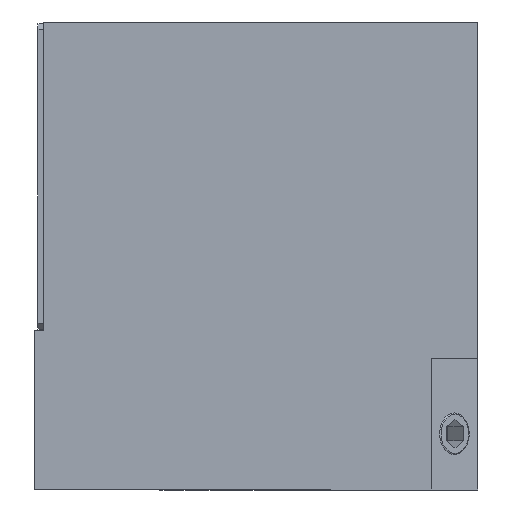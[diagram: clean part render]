
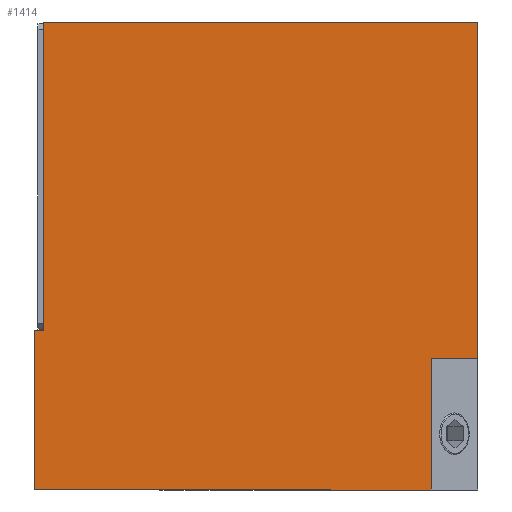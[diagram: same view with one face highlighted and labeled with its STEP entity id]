
A CAD part, left-side view. The second image highlights one B-rep face of the part: STEP entity #1414.
In plain terms, the highlighted planar face has unit normal (-1, 0, 0).
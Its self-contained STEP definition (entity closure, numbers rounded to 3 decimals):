
#20 = DIRECTION ( 'NONE',  ( 0., 0., 1. ) ) ;
#26 = VECTOR ( 'NONE', #2638, 1000. ) ;
#52 = CARTESIAN_POINT ( 'NONE',  ( -9., -6.5, -3. ) ) ;
#110 = VECTOR ( 'NONE', #434, 1000. ) ;
#156 = CARTESIAN_POINT ( 'NONE',  ( -9., 14.2, -1.5 ) ) ;
#233 = VERTEX_POINT ( 'NONE', #2288 ) ;
#236 = DIRECTION ( 'NONE',  ( 1., 0., 0. ) ) ;
#241 = ORIENTED_EDGE ( 'NONE', *, *, #3736, .F. ) ;
#256 = EDGE_CURVE ( 'NONE', #1721, #2634, #2696, .T. ) ;
#272 = CARTESIAN_POINT ( 'NONE',  ( -9., 14.2, 15. ) ) ;
#434 = DIRECTION ( 'NONE',  ( 0., 1., 0. ) ) ;
#521 = LINE ( 'NONE', #272, #1682 ) ;
#544 = EDGE_CURVE ( 'NONE', #956, #1179, #2227, .T. ) ;
#580 = ORIENTED_EDGE ( 'NONE', *, *, #1408, .T. ) ;
#747 = EDGE_CURVE ( 'NONE', #1751, #233, #3554, .T. ) ;
#838 = CARTESIAN_POINT ( 'NONE',  ( -9., -9., 15. ) ) ;
#885 = CARTESIAN_POINT ( 'NONE',  ( -9., 14.7, 15. ) ) ;
#956 = VERTEX_POINT ( 'NONE', #2574 ) ;
#1001 = CARTESIAN_POINT ( 'NONE',  ( -9., -6.5, -10. ) ) ;
#1044 = CARTESIAN_POINT ( 'NONE',  ( -9., 14.7, -1.5 ) ) ;
#1069 = LINE ( 'NONE', #1417, #2656 ) ;
#1179 = VERTEX_POINT ( 'NONE', #838 ) ;
#1277 = ORIENTED_EDGE ( 'NONE', *, *, #544, .F. ) ;
#1408 = EDGE_CURVE ( 'NONE', #956, #1721, #521, .T. ) ;
#1414 = ADVANCED_FACE ( 'NONE', ( #2254 ), #2272, .F. ) ;
#1417 = CARTESIAN_POINT ( 'NONE',  ( -9., -6.5, -3. ) ) ;
#1424 = DIRECTION ( 'NONE',  ( 0., 0., -1. ) ) ;
#1436 = DIRECTION ( 'NONE',  ( 0., 1., 0. ) ) ;
#1479 = LINE ( 'NONE', #1774, #26 ) ;
#1499 = EDGE_CURVE ( 'NONE', #1179, #1634, #1479, .T. ) ;
#1500 = AXIS2_PLACEMENT_3D ( 'NONE', #3431, #236, #1424 ) ;
#1634 = VERTEX_POINT ( 'NONE', #2761 ) ;
#1682 = VECTOR ( 'NONE', #1754, 1000. ) ;
#1721 = VERTEX_POINT ( 'NONE', #156 ) ;
#1726 = DIRECTION ( 'NONE',  ( 0., -1., 0. ) ) ;
#1751 = VERTEX_POINT ( 'NONE', #1001 ) ;
#1754 = DIRECTION ( 'NONE',  ( 0., 0., -1. ) ) ;
#1774 = CARTESIAN_POINT ( 'NONE',  ( -9., -9., 15. ) ) ;
#1784 = CARTESIAN_POINT ( 'NONE',  ( -9., 14.7, -10. ) ) ;
#1867 = VECTOR ( 'NONE', #1726, 1000. ) ;
#2141 = EDGE_CURVE ( 'NONE', #3304, #1751, #1069, .T. ) ;
#2227 = LINE ( 'NONE', #3731, #1867 ) ;
#2254 = FACE_OUTER_BOUND ( 'NONE', #3100, .T. ) ;
#2272 = PLANE ( 'NONE',  #1500 ) ;
#2288 = CARTESIAN_POINT ( 'NONE',  ( -9., 14.7, -10. ) ) ;
#2348 = LINE ( 'NONE', #885, #2876 ) ;
#2388 = DIRECTION ( 'NONE',  ( 0., 1., 0. ) ) ;
#2574 = CARTESIAN_POINT ( 'NONE',  ( -9., 14.2, 15. ) ) ;
#2634 = VERTEX_POINT ( 'NONE', #1044 ) ;
#2638 = DIRECTION ( 'NONE',  ( 0., 0., -1. ) ) ;
#2656 = VECTOR ( 'NONE', #3685, 1000. ) ;
#2696 = LINE ( 'NONE', #3232, #3648 ) ;
#2746 = LINE ( 'NONE', #3664, #110 ) ;
#2761 = CARTESIAN_POINT ( 'NONE',  ( -9., -9., -3. ) ) ;
#2797 = VECTOR ( 'NONE', #1436, 1000. ) ;
#2876 = VECTOR ( 'NONE', #20, 1000. ) ;
#2903 = ORIENTED_EDGE ( 'NONE', *, *, #1499, .F. ) ;
#3100 = EDGE_LOOP ( 'NONE', ( #3222, #3597, #3320, #2903, #1277, #580, #3406, #241 ) ) ;
#3222 = ORIENTED_EDGE ( 'NONE', *, *, #747, .F. ) ;
#3232 = CARTESIAN_POINT ( 'NONE',  ( -9., 14.7, -1.5 ) ) ;
#3304 = VERTEX_POINT ( 'NONE', #52 ) ;
#3320 = ORIENTED_EDGE ( 'NONE', *, *, #3567, .F. ) ;
#3406 = ORIENTED_EDGE ( 'NONE', *, *, #256, .T. ) ;
#3431 = CARTESIAN_POINT ( 'NONE',  ( -9., -9., 15. ) ) ;
#3554 = LINE ( 'NONE', #1784, #2797 ) ;
#3567 = EDGE_CURVE ( 'NONE', #1634, #3304, #2746, .T. ) ;
#3597 = ORIENTED_EDGE ( 'NONE', *, *, #2141, .F. ) ;
#3648 = VECTOR ( 'NONE', #2388, 1000. ) ;
#3664 = CARTESIAN_POINT ( 'NONE',  ( -9., -9., -3. ) ) ;
#3685 = DIRECTION ( 'NONE',  ( 0., 0., -1. ) ) ;
#3731 = CARTESIAN_POINT ( 'NONE',  ( -9., 14.7, 15. ) ) ;
#3736 = EDGE_CURVE ( 'NONE', #233, #2634, #2348, .T. ) ;
